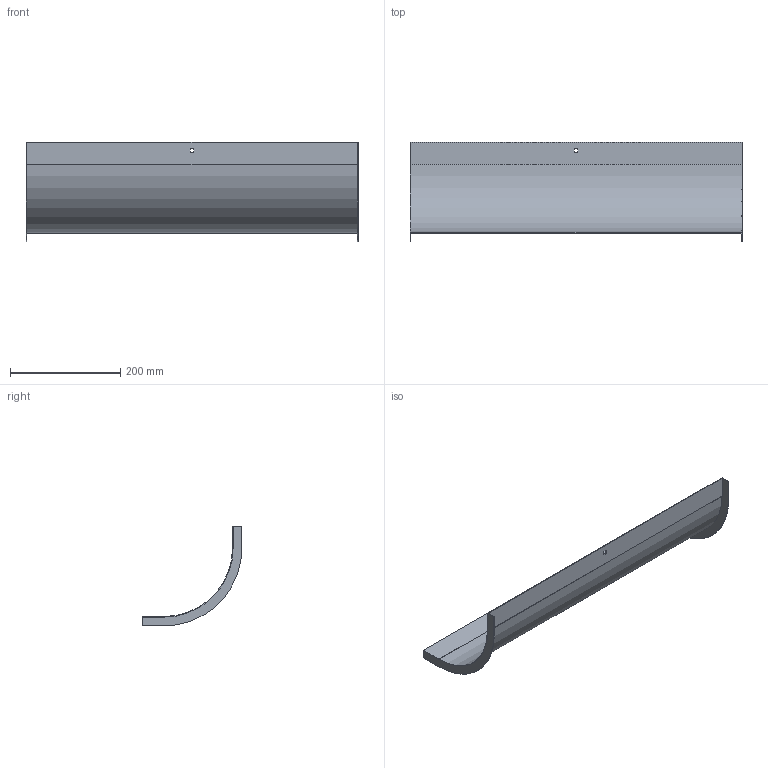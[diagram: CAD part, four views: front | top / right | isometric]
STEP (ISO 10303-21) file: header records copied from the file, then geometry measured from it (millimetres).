
FILE_DESCRIPTION (( 'STEP AP214' ), '1' );
FILE_NAME ('OS9_600.step', '2025-07-16T09:17:45', ( '' ), ( '' ), 'SwSTEP 2.0', 'SolidWorks 2023', '' );
FILE_SCHEMA (( 'AUTOMOTIVE_DESIGN' ));
Length unit declared in the file: millimetre
Products named in the file (1): OS9_600
Bounding box: 602 x 181 x 181 mm (x, y, z)
Volume: 175050.9 mm3; surface area: 352023.2 mm2
Topology: 1 solids, 1 shells, 26 faces, 72 edges, 48 vertices
Faces by surface type: plane 22, cylinder 4
Entity records: 855 total; most frequent: CARTESIAN_POINT 147, ORIENTED_EDGE 144, DIRECTION 134, EDGE_CURVE 72, VECTOR 64, LINE 64, VERTEX_POINT 48, AXIS2_PLACEMENT_3D 35
